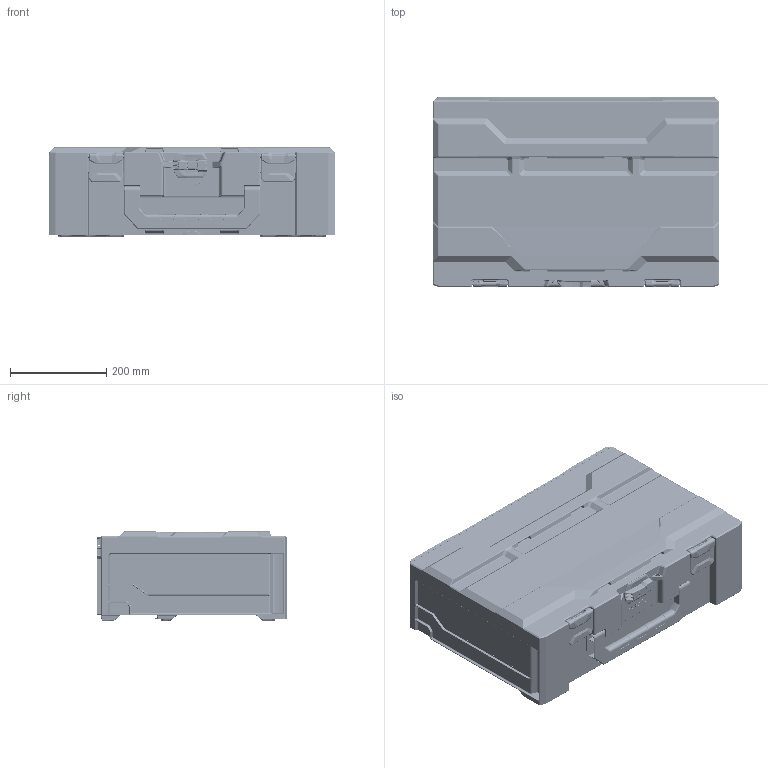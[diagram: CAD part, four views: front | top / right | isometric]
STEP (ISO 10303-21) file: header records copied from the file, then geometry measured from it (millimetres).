
FILE_DESCRIPTION(/* description */ (''),/* implementation_level */ '2;1');
FILE_NAME(/* name */ 'metaBOX_185_XL_Neutral.stp',/* time_stamp */ '2021-03-16T14:48:40+01:00',/* author */ (''),/* organization */ (''),/* preprocessor_version */ 'ST-DEVELOPER v16.7',/* originating_system */ 'SIEMENS PLM Software NX 12.0',/* authorisation */ '');
FILE_SCHEMA (('AUTOMOTIVE_DESIGN { 1 0 10303 214 3 1 1 1 }'));
Products named in the file (1): BU0918F9E52e75
Bounding box: 596 x 396.2 x 185 mm (x, y, z)
Volume: 3290252.2 mm3; surface area: 2125017.8 mm2
Topology: 6 solids, 6 shells, 13626 faces, 33367 edges, 19366 vertices
Faces by surface type: bspline 5159, cylinder 4642, plane 2993, sphere 389, cone 324, torus 119
Full cylindrical faces by diameter (mm): 4 x15
Entity records: 545431 total; most frequent: CARTESIAN_POINT 214230, ORIENTED_EDGE 65416, DIRECTION 55461, EDGE_CURVE 32708, AXIS2_PLACEMENT_3D 21721, VERTEX_POINT 19299, EDGE_LOOP 13945, ADVANCED_FACE 13625
